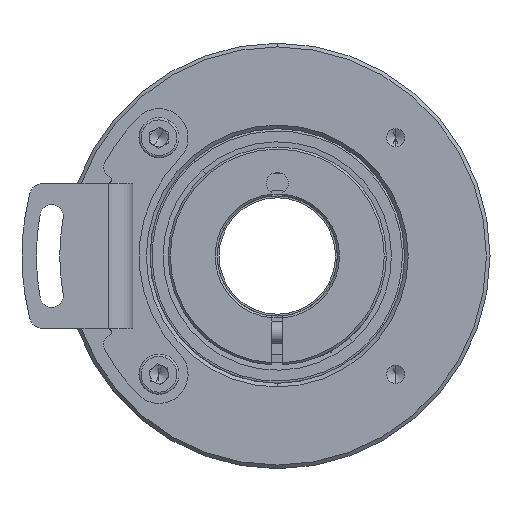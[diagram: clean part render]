
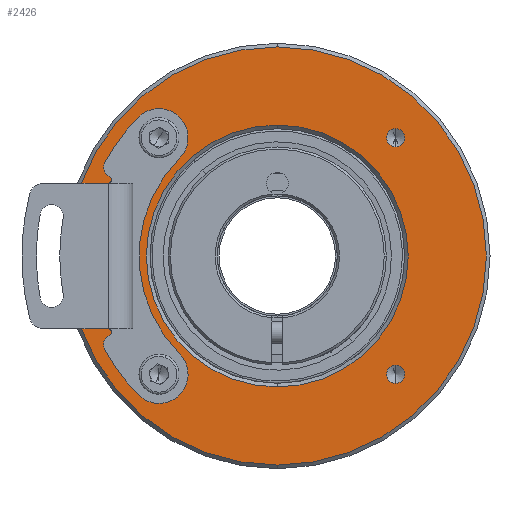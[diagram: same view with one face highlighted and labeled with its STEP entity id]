
A CAD part, front view. The second image highlights one B-rep face of the part: STEP entity #2426.
In plain terms, the highlighted planar face has unit normal (0, -1, 0).
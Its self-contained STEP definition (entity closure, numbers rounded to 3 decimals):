
#86 = DIRECTION ( 'NONE',  ( 0., 0., -1. ) ) ;
#108 = DIRECTION ( 'NONE',  ( 0., 0., -1. ) ) ;
#341 = DIRECTION ( 'NONE',  ( 0., 0., -1. ) ) ;
#578 = CARTESIAN_POINT ( 'NONE',  ( 0., 0., 0. ) ) ;
#849 = CARTESIAN_POINT ( 'NONE',  ( -16.263, 0., -16.263 ) ) ;
#1011 = CIRCLE ( 'NONE', #12743, 18. ) ;
#1350 = CARTESIAN_POINT ( 'NONE',  ( -16.263, 0., -17.513 ) ) ;
#1378 = VERTEX_POINT ( 'NONE', #14355 ) ;
#1409 = ORIENTED_EDGE ( 'NONE', *, *, #15895, .T. ) ;
#1592 = VERTEX_POINT ( 'NONE', #15178 ) ;
#1633 = EDGE_CURVE ( 'NONE', #1378, #14808, #6172, .T. ) ;
#1862 = EDGE_CURVE ( 'NONE', #12239, #15659, #12097, .T. ) ;
#1869 = AXIS2_PLACEMENT_3D ( 'NONE', #7192, #2202, #4512 ) ;
#2005 = AXIS2_PLACEMENT_3D ( 'NONE', #6262, #11164, #108 ) ;
#2045 = CARTESIAN_POINT ( 'NONE',  ( -16.263, 0., -15.013 ) ) ;
#2135 = DIRECTION ( 'NONE',  ( 0., 0., -1. ) ) ;
#2202 = DIRECTION ( 'NONE',  ( 0., -1., 0. ) ) ;
#2302 = FACE_BOUND ( 'NONE', #7945, .T. ) ;
#2426 = ADVANCED_FACE ( 'NONE', ( #11748, #2302, #13943, #8811, #8425, #8050 ), #4411, .T. ) ;
#2470 = EDGE_CURVE ( 'NONE', #6427, #10037, #3274, .T. ) ;
#2526 = DIRECTION ( 'NONE',  ( 0., -1., 0. ) ) ;
#2642 = EDGE_CURVE ( 'NONE', #10037, #6427, #4292, .T. ) ;
#2777 = CARTESIAN_POINT ( 'NONE',  ( 16.263, 0., 17.513 ) ) ;
#2821 = VERTEX_POINT ( 'NONE', #2777 ) ;
#2838 = AXIS2_PLACEMENT_3D ( 'NONE', #7817, #14192, #14140 ) ;
#2931 = EDGE_LOOP ( 'NONE', ( #6753, #6283 ) ) ;
#3215 = EDGE_LOOP ( 'NONE', ( #13552, #3383 ) ) ;
#3274 = CIRCLE ( 'NONE', #5331, 1.25 ) ;
#3383 = ORIENTED_EDGE ( 'NONE', *, *, #2470, .F. ) ;
#3664 = AXIS2_PLACEMENT_3D ( 'NONE', #578, #9349, #5505 ) ;
#3762 = DIRECTION ( 'NONE',  ( 0., 0., -1. ) ) ;
#4191 = AXIS2_PLACEMENT_3D ( 'NONE', #9939, #13665, #13600 ) ;
#4292 = CIRCLE ( 'NONE', #4191, 1.25 ) ;
#4332 = CIRCLE ( 'NONE', #9051, 1.25 ) ;
#4383 = ORIENTED_EDGE ( 'NONE', *, *, #1633, .T. ) ;
#4411 = PLANE ( 'NONE',  #3664 ) ;
#4512 = DIRECTION ( 'NONE',  ( 0., 0., -1. ) ) ;
#5075 = CARTESIAN_POINT ( 'NONE',  ( -16.263, 0., 16.263 ) ) ;
#5095 = ORIENTED_EDGE ( 'NONE', *, *, #15961, .F. ) ;
#5281 = VERTEX_POINT ( 'NONE', #15527 ) ;
#5331 = AXIS2_PLACEMENT_3D ( 'NONE', #849, #10744, #2135 ) ;
#5344 = DIRECTION ( 'NONE',  ( 0., 0., -1. ) ) ;
#5505 = DIRECTION ( 'NONE',  ( 0., 0., -1. ) ) ;
#5875 = DIRECTION ( 'NONE',  ( 0., 0., -1. ) ) ;
#6043 = CARTESIAN_POINT ( 'NONE',  ( 0., 0., 0. ) ) ;
#6172 = CIRCLE ( 'NONE', #12367, 28.75 ) ;
#6262 = CARTESIAN_POINT ( 'NONE',  ( 0., 0., 0. ) ) ;
#6283 = ORIENTED_EDGE ( 'NONE', *, *, #9597, .F. ) ;
#6427 = VERTEX_POINT ( 'NONE', #2045 ) ;
#6753 = ORIENTED_EDGE ( 'NONE', *, *, #14469, .F. ) ;
#7192 = CARTESIAN_POINT ( 'NONE',  ( 0., 0., 0. ) ) ;
#7685 = DIRECTION ( 'NONE',  ( 0., 0., -1. ) ) ;
#7777 = EDGE_CURVE ( 'NONE', #12946, #12605, #4332, .T. ) ;
#7817 = CARTESIAN_POINT ( 'NONE',  ( 16.263, 0., 16.263 ) ) ;
#7945 = EDGE_LOOP ( 'NONE', ( #8837, #5095 ) ) ;
#7982 = CIRCLE ( 'NONE', #2838, 1.25 ) ;
#7992 = CARTESIAN_POINT ( 'NONE',  ( 0., 0., -18. ) ) ;
#8017 = EDGE_CURVE ( 'NONE', #12605, #12946, #13576, .T. ) ;
#8050 = FACE_OUTER_BOUND ( 'NONE', #13405, .T. ) ;
#8425 = FACE_BOUND ( 'NONE', #8816, .T. ) ;
#8811 = FACE_BOUND ( 'NONE', #3215, .T. ) ;
#8816 = EDGE_LOOP ( 'NONE', ( #15636, #11208 ) ) ;
#8826 = DIRECTION ( 'NONE',  ( 0., -1., 0. ) ) ;
#8837 = ORIENTED_EDGE ( 'NONE', *, *, #1862, .F. ) ;
#9038 = CIRCLE ( 'NONE', #11583, 1.25 ) ;
#9051 = AXIS2_PLACEMENT_3D ( 'NONE', #10011, #8826, #3762 ) ;
#9349 = DIRECTION ( 'NONE',  ( 0., -1., 0. ) ) ;
#9597 = EDGE_CURVE ( 'NONE', #2821, #5281, #7982, .T. ) ;
#9908 = EDGE_LOOP ( 'NONE', ( #1409, #14039 ) ) ;
#9939 = CARTESIAN_POINT ( 'NONE',  ( -16.263, 0., -16.263 ) ) ;
#10011 = CARTESIAN_POINT ( 'NONE',  ( 16.263, 0., -16.263 ) ) ;
#10037 = VERTEX_POINT ( 'NONE', #1350 ) ;
#10076 = DIRECTION ( 'NONE',  ( 0., 0., -1. ) ) ;
#10205 = CIRCLE ( 'NONE', #2005, 18. ) ;
#10358 = DIRECTION ( 'NONE',  ( 0., -1., 0. ) ) ;
#10622 = CIRCLE ( 'NONE', #1869, 28.75 ) ;
#10744 = DIRECTION ( 'NONE',  ( 0., -1., 0. ) ) ;
#10816 = VERTEX_POINT ( 'NONE', #7992 ) ;
#11164 = DIRECTION ( 'NONE',  ( 0., 1., 0. ) ) ;
#11208 = ORIENTED_EDGE ( 'NONE', *, *, #8017, .F. ) ;
#11583 = AXIS2_PLACEMENT_3D ( 'NONE', #5075, #13863, #10076 ) ;
#11748 = FACE_BOUND ( 'NONE', #9908, .T. ) ;
#11828 = AXIS2_PLACEMENT_3D ( 'NONE', #15274, #13889, #86 ) ;
#12097 = CIRCLE ( 'NONE', #11828, 1.25 ) ;
#12137 = EDGE_CURVE ( 'NONE', #14808, #1378, #10622, .T. ) ;
#12239 = VERTEX_POINT ( 'NONE', #16186 ) ;
#12367 = AXIS2_PLACEMENT_3D ( 'NONE', #13954, #2526, #7685 ) ;
#12605 = VERTEX_POINT ( 'NONE', #15837 ) ;
#12688 = ORIENTED_EDGE ( 'NONE', *, *, #12137, .T. ) ;
#12743 = AXIS2_PLACEMENT_3D ( 'NONE', #6043, #16108, #5875 ) ;
#12871 = CARTESIAN_POINT ( 'NONE',  ( 16.263, 0., -16.263 ) ) ;
#12896 = CARTESIAN_POINT ( 'NONE',  ( 16.263, 0., 16.263 ) ) ;
#12946 = VERTEX_POINT ( 'NONE', #14031 ) ;
#13006 = CARTESIAN_POINT ( 'NONE',  ( -16.263, 0., 17.513 ) ) ;
#13405 = EDGE_LOOP ( 'NONE', ( #12688, #4383 ) ) ;
#13552 = ORIENTED_EDGE ( 'NONE', *, *, #2642, .F. ) ;
#13576 = CIRCLE ( 'NONE', #15311, 1.25 ) ;
#13600 = DIRECTION ( 'NONE',  ( 0., 0., -1. ) ) ;
#13665 = DIRECTION ( 'NONE',  ( 0., -1., 0. ) ) ;
#13863 = DIRECTION ( 'NONE',  ( 0., -1., 0. ) ) ;
#13883 = AXIS2_PLACEMENT_3D ( 'NONE', #12896, #10358, #341 ) ;
#13889 = DIRECTION ( 'NONE',  ( 0., -1., 0. ) ) ;
#13943 = FACE_BOUND ( 'NONE', #2931, .T. ) ;
#13954 = CARTESIAN_POINT ( 'NONE',  ( 0., 0., 0. ) ) ;
#14014 = DIRECTION ( 'NONE',  ( 0., -1., 0. ) ) ;
#14031 = CARTESIAN_POINT ( 'NONE',  ( 16.263, 0., -17.513 ) ) ;
#14039 = ORIENTED_EDGE ( 'NONE', *, *, #15965, .T. ) ;
#14140 = DIRECTION ( 'NONE',  ( 0., 0., -1. ) ) ;
#14192 = DIRECTION ( 'NONE',  ( 0., -1., 0. ) ) ;
#14355 = CARTESIAN_POINT ( 'NONE',  ( 0., 0., -28.75 ) ) ;
#14469 = EDGE_CURVE ( 'NONE', #5281, #2821, #15718, .T. ) ;
#14808 = VERTEX_POINT ( 'NONE', #16325 ) ;
#15178 = CARTESIAN_POINT ( 'NONE',  ( 0., 0., 18. ) ) ;
#15274 = CARTESIAN_POINT ( 'NONE',  ( -16.263, 0., 16.263 ) ) ;
#15311 = AXIS2_PLACEMENT_3D ( 'NONE', #12871, #14014, #5344 ) ;
#15527 = CARTESIAN_POINT ( 'NONE',  ( 16.263, 0., 15.013 ) ) ;
#15636 = ORIENTED_EDGE ( 'NONE', *, *, #7777, .F. ) ;
#15659 = VERTEX_POINT ( 'NONE', #13006 ) ;
#15718 = CIRCLE ( 'NONE', #13883, 1.25 ) ;
#15837 = CARTESIAN_POINT ( 'NONE',  ( 16.263, 0., -15.013 ) ) ;
#15895 = EDGE_CURVE ( 'NONE', #10816, #1592, #1011, .T. ) ;
#15961 = EDGE_CURVE ( 'NONE', #15659, #12239, #9038, .T. ) ;
#15965 = EDGE_CURVE ( 'NONE', #1592, #10816, #10205, .T. ) ;
#16108 = DIRECTION ( 'NONE',  ( 0., 1., 0. ) ) ;
#16186 = CARTESIAN_POINT ( 'NONE',  ( -16.263, 0., 15.013 ) ) ;
#16325 = CARTESIAN_POINT ( 'NONE',  ( 0., 0., 28.75 ) ) ;
